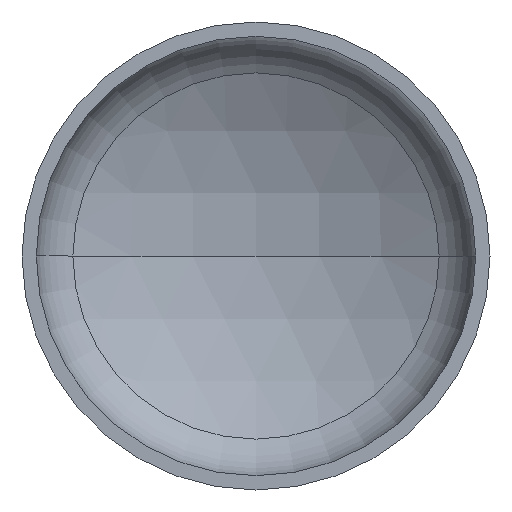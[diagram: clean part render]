
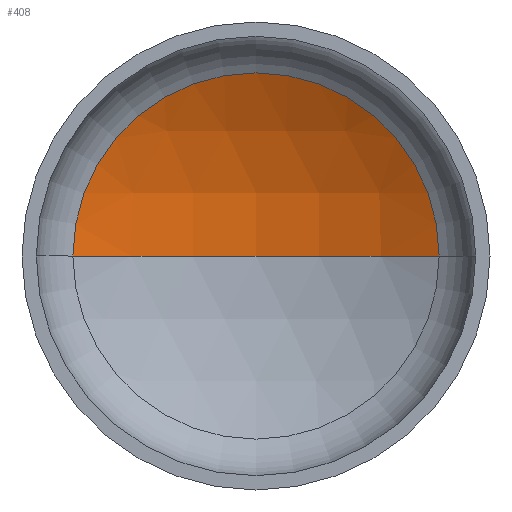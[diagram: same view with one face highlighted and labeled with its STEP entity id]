
A CAD part, front view. The second image highlights one B-rep face of the part: STEP entity #408.
In plain terms, the highlighted spherical face has radius 1360 mm.
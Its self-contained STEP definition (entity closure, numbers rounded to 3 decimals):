
#11 = CARTESIAN_POINT ( 'NONE',  ( 665.164, 346.781, 0. ) ) ;
#17 = EDGE_LOOP ( 'NONE', ( #174, #151, #114 ) ) ;
#29 = AXIS2_PLACEMENT_3D ( 'NONE', #185, #261, #55 ) ;
#32 = AXIS2_PLACEMENT_3D ( 'NONE', #243, #193, #336 ) ;
#36 = AXIS2_PLACEMENT_3D ( 'NONE', #299, #298, #295 ) ;
#44 = CIRCLE ( 'NONE', #29, 1360. ) ;
#55 = DIRECTION ( 'NONE',  ( -1., 0., 0. ) ) ;
#67 = EDGE_CURVE ( 'NONE', #145, #99, #369, .T. ) ;
#95 = EDGE_CURVE ( 'NONE', #144, #145, #44, .T. ) ;
#99 = VERTEX_POINT ( 'NONE', #217 ) ;
#114 = ORIENTED_EDGE ( 'NONE', *, *, #67, .T. ) ;
#137 = EDGE_CURVE ( 'NONE', #144, #99, #250, .T. ) ;
#144 = VERTEX_POINT ( 'NONE', #357 ) ;
#145 = VERTEX_POINT ( 'NONE', #11 ) ;
#151 = ORIENTED_EDGE ( 'NONE', *, *, #95, .T. ) ;
#174 = ORIENTED_EDGE ( 'NONE', *, *, #137, .F. ) ;
#185 = CARTESIAN_POINT ( 'NONE',  ( 0., -839.456, 0. ) ) ;
#188 = FACE_OUTER_BOUND ( 'NONE', #17, .T. ) ;
#193 = DIRECTION ( 'NONE',  ( 0., 0., 1. ) ) ;
#217 = CARTESIAN_POINT ( 'NONE',  ( -665.164, 346.781, 0. ) ) ;
#243 = CARTESIAN_POINT ( 'NONE',  ( 0., -839.456, 0. ) ) ;
#250 = CIRCLE ( 'NONE', #32, 1360. ) ;
#253 = AXIS2_PLACEMENT_3D ( 'NONE', #314, #315, #284 ) ;
#261 = DIRECTION ( 'NONE',  ( 0., 0., -1. ) ) ;
#284 = DIRECTION ( 'NONE',  ( -1., 0., 0. ) ) ;
#295 = DIRECTION ( 'NONE',  ( 1., 0., 0. ) ) ;
#298 = DIRECTION ( 'NONE',  ( 0., -1., 0. ) ) ;
#299 = CARTESIAN_POINT ( 'NONE',  ( 0., 346.781, 0. ) ) ;
#314 = CARTESIAN_POINT ( 'NONE',  ( 0., -839.456, 0. ) ) ;
#315 = DIRECTION ( 'NONE',  ( 0., 0., -1. ) ) ;
#336 = DIRECTION ( 'NONE',  ( 1., 0., 0. ) ) ;
#357 = CARTESIAN_POINT ( 'NONE',  ( 0., 520.544, 0. ) ) ;
#366 = SPHERICAL_SURFACE ( 'NONE', #253, 1360. ) ;
#369 = CIRCLE ( 'NONE', #36, 665.164 ) ;
#408 = ADVANCED_FACE ( 'NONE', ( #188 ), #366, .F. ) ;
